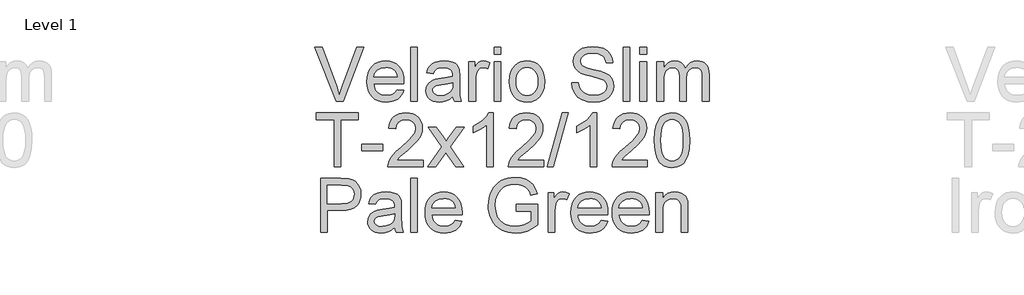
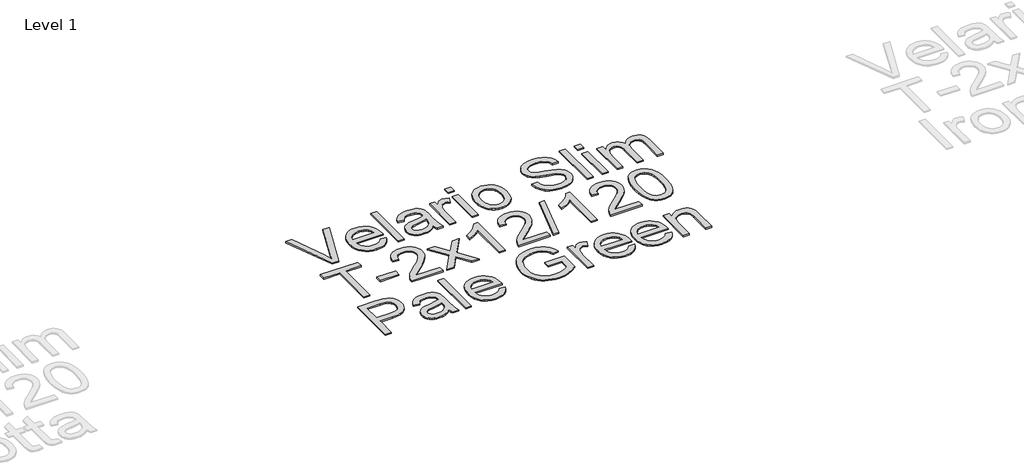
# One storey, part 4 of 13: 1 proxy.
"""IFC4 building model written with IfcOpenShell, lengths in millimetres."""

from ifc_helpers import new_model, si_unit, frame, origin, place, context, project, spatial, polyline, outline, extrude, element, save

model = new_model("IFC4")

# Units and contexts
model_context = context("Model", 3, world=origin())
ifc_project = project(units=[si_unit("LENGTHUNIT", "METRE", prefix="MILLI")], contexts=[model_context])

# Site, building, storey
site = spatial("IfcSite", under=ifc_project)
building = spatial("IfcBuilding", under=site)
storey = spatial("IfcBuildingStorey", under=building, Name="Level 1", Elevation=4000.0)

# Proxy
placement = place(None, origin())
element("IfcBuildingElementProxy", 1, Name="Elysium 400mm Arial", ObjectType="Elysium 400mm Arial", at=placement, inside=storey, context=model_context, shape_type="SweptSolid", body=[
    extrude(outline(polyline([(43601.8504181, -17959.2083157), (43441.9443775, -17557.3830752), (43495.7041998, -17557.3830752), (43602.7333349, -17846.8816799), (43624.4138471, -17912.1194204), (43645.8000538, -17846.8816799), (43753.1234945, -17557.3830752), (43806.8833168, -17557.3830752), (43653.7463049, -17959.2083157), (43601.8504181, -17959.2083157)])), frame((0.0, 0.0, 4000.0), z_axis=(0.0, 0.0, 1.0), x_axis=(1.0, 0.0, 0.0)), (0.0, 0.0, 1.0), 10.0),
    extrude(outline(polyline([(44053.9038138, -17871.3090444), (44103.1509502, -17877.5875638), (44095.6001723, -17897.3121701), (44085.4067753, -17914.6945943), (44072.5707594, -17929.7348366), (44057.0921244, -17942.4328968), (44039.130286, -17952.5189948), (44018.8446596, -17959.7233505), (43971.3020431, -17965.4868351), (43940.1363068, -17963.000566), (43912.3673475, -17955.5417585), (43887.9951653, -17943.1104128), (43867.0197602, -17925.7065287), (43850.1523708, -17903.8144843), (43838.1042354, -17877.9186575), (43830.8753542, -17848.0190484), (43828.4657271, -17814.1156569), (43830.8998797, -17779.0626341), (43838.2023373, -17748.1666779), (43850.3731, -17721.4277882), (43867.4121677, -17698.845965), (43888.3323905, -17680.9055864), (43912.1466183, -17668.0910302), (43938.8548512, -17660.4022965), (43968.457089, -17657.8393853), (43997.1058994, -17660.3961652), (44023.0139889, -17668.0665048), (44046.1813576, -17680.8504041), (44066.6080054, -17698.7478632), (44083.2822568, -17721.2806354), (44095.1924364, -17747.9704741), (44102.3385441, -17778.8173794), (44104.7205801, -17813.8213513), (44104.4262745, -17827.3594087), (43878.6938822, -17827.3594087), (43881.6032157, -17847.402846), (43887.38816, -17864.9569486), (43896.0487153, -17880.0217163), (43907.5848816, -17892.5971492), (43921.3589966, -17902.5115689), (43936.7333983, -17909.5932973), (43972.2830618, -17915.2586801), (43999.0158201, -17912.6344552), (44021.5301982, -17904.7617805), (44039.8261961, -17891.1501466), (44053.9038138, -17871.3090444)]), holes=[polyline([(43878.6938822, -17777.1312536), (44054.492425, -17777.1312536), (44047.6988708, -17750.594699), (44034.3815426, -17731.6119881), (44020.6840696, -17721.3112922), (44005.0981358, -17713.9536523), (43987.623741, -17709.5390684), (43968.2608853, -17708.0675404), (43934.403479, -17712.7641672), (43906.4076592, -17726.8540476), (43886.9467016, -17748.8166027), (43878.6938822, -17777.1312536)])]), frame((0.0, 0.0, 4000.0), z_axis=(0.0, 0.0, 1.0), x_axis=(1.0, 0.0, 0.0)), (0.0, 0.0, 1.0), 10.0),
    extrude(outline(polyline([(44154.9487351, -17959.2083157), (44154.9487351, -17557.3830752), (44205.1768902, -17557.3830752), (44205.1768902, -17959.2083157), (44154.9487351, -17959.2083157)])), frame((0.0, 0.0, 4000.0), z_axis=(0.0, 0.0, 1.0), x_axis=(1.0, 0.0, 0.0)), (0.0, 0.0, 1.0), 10.0),
    extrude(outline(polyline([(44468.8747043, -17921.5371994), (44444.8765355, -17942.1140657), (44420.1671282, -17955.5785467), (44394.1823966, -17963.009763), (44366.358255, -17965.4868351), (44343.9940954, -17963.9969131), (44324.3829194, -17959.5271468), (44307.5247269, -17952.0775364), (44293.4195181, -17941.6480818), (44282.2818907, -17928.9009707), (44274.3264426, -17914.4983906), (44269.5531737, -17898.4403415), (44267.962084, -17880.7268234), (44270.3655797, -17859.9047025), (44277.5760669, -17840.995568), (44288.6983658, -17824.8087602), (44302.8372972, -17812.1536195), (44319.4533006, -17802.5886877), (44338.0068159, -17795.6725062), (44381.4659423, -17788.1186625), (44432.8222688, -17780.1724114), (44468.5803987, -17770.8527342), (44468.8747043, -17759.6691216), (44465.4166136, -17737.2528453), (44455.0423413, -17722.5866165), (44431.8412502, -17711.6973094), (44399.5166855, -17708.0675404), (44369.5956166, -17710.4832988), (44348.6999193, -17717.7305741), (44334.4506233, -17731.1337415), (44324.4687585, -17752.0171761), (44274.2406034, -17745.7386567), (44282.9594067, -17718.2701344), (44295.9701666, -17696.687724), (44314.4868937, -17680.1820851), (44339.7235986, -17667.9438774), (44370.588898, -17660.3655083), (44405.9914086, -17657.8393853), (44439.9469168, -17660.0712027), (44466.8636161, -17666.7666551), (44487.1584395, -17676.834359), (44501.2483199, -17689.1829313), (44510.5925226, -17704.4500341), (44516.6503128, -17723.2733295), (44519.1028594, -17767.2229652), (44519.1028594, -17829.7138534), (44521.6535079, -17916.9754627), (44531.6598982, -17959.2083157), (44481.4317431, -17959.2083157), (44473.3873902, -17941.7461837), (44468.8747043, -17921.5371994)]), holes=[polyline([(44468.8747043, -17821.0808893), (44435.1276627, -17829.4440733), (44387.8425635, -17836.4828822), (44344.6286918, -17844.625337), (44333.3837655, -17850.1926178), (44325.0573697, -17857.8690888), (44319.9070218, -17867.0661387), (44318.1902391, -17877.1951563), (44321.9303727, -17892.1311653), (44333.1507736, -17904.369373), (44351.606187, -17912.5363533), (44377.0513583, -17915.2586801), (44404.0293713, -17912.2543104), (44427.8681246, -17903.2412016), (44447.1941921, -17889.9606615), (44460.6341477, -17874.1539985), (44466.593836, -17857.8690888), (44468.5803987, -17835.3056598), (44468.8747043, -17821.0808893)])]), frame((0.0, 0.0, 4000.0), z_axis=(0.0, 0.0, 1.0), x_axis=(1.0, 0.0, 0.0)), (0.0, 0.0, 1.0), 10.0),
    extrude(outline(polyline([(44588.1665726, -17959.2083157), (44588.1665726, -17664.1179047), (44632.1162083, -17664.1179047), (44632.1162083, -17707.7732348), (44648.3520671, -17682.4629535), (44663.3126015, -17667.55147), (44678.3221869, -17660.2674065), (44694.7051984, -17657.8393853), (44719.7211741, -17661.714409), (44745.1295573, -17673.33948), (44728.3541383, -17718.3682362), (44710.6958025, -17710.6427143), (44693.0374667, -17708.0675404), (44678.0401441, -17710.5446125), (44664.6369767, -17717.9758288), (44653.8089833, -17729.7971036), (44646.5371825, -17745.4443511), (44640.4303414, -17773.5014846), (44638.3947277, -17804.1092666), (44638.3947277, -17959.2083157), (44588.1665726, -17959.2083157)])), frame((0.0, 0.0, 4000.0), z_axis=(0.0, 0.0, 1.0), x_axis=(1.0, 0.0, 0.0)), (0.0, 0.0, 1.0), 10.0),
    extrude(outline(polyline([(44776.5221542, -17607.6112302), (44776.5221542, -17557.3830752), (44826.7503093, -17557.3830752), (44826.7503093, -17607.6112302), (44776.5221542, -17607.6112302)])), frame((0.0, 0.0, 4000.0), z_axis=(0.0, 0.0, 1.0), x_axis=(1.0, 0.0, 0.0)), (0.0, 0.0, 1.0), 10.0),
    extrude(outline(polyline([(44776.5221542, -17959.2083157), (44776.5221542, -17664.1179047), (44826.7503093, -17664.1179047), (44826.7503093, -17959.2083157), (44776.5221542, -17959.2083157)])), frame((0.0, 0.0, 4000.0), z_axis=(0.0, 0.0, 1.0), x_axis=(1.0, 0.0, 0.0)), (0.0, 0.0, 1.0), 10.0),
    extrude(outline(polyline([(44889.5355031, -17811.6631102), (44892.2516985, -17773.4463023), (44900.4002847, -17740.5147324), (44913.9812617, -17712.8684004), (44932.9946295, -17690.5073065), (44952.1367559, -17676.215091), (44973.2654452, -17666.0063656), (44996.3806972, -17659.8811304), (45021.482512, -17657.8393853), (45049.1932233, -17660.3256545), (45074.2490529, -17667.7844619), (45096.6500007, -17680.2158077), (45116.3960668, -17697.6196917), (45132.5123639, -17719.4075029), (45144.0240046, -17744.99063), (45150.9309891, -17774.369073), (45153.2333172, -17807.5428319), (45149.1620898, -17858.2860217), (45136.9484076, -17896.9136312), (45116.9478898, -17925.8414188), (45089.5161557, -17947.4851428), (45056.9340736, -17960.9864121), (45021.482512, -17965.4868351), (44993.3671306, -17963.009763), (44968.0783091, -17955.5785467), (44945.6160476, -17943.1931862), (44925.9803461, -17925.8536815), (44910.0357273, -17903.8543382), (44898.6467138, -17877.4894619), (44891.8133058, -17846.7590526), (44889.5355031, -17811.6631102)]), holes=[polyline([(44939.7636582, -17811.5650084), (44941.2167921, -17835.9279935), (44945.5761937, -17857.0229602), (44952.8418631, -17874.8499086), (44963.0138003, -17889.4088385), (44975.386898, -17900.7181442), (44989.2560493, -17908.7962197), (45004.6212539, -17913.643065), (45021.482512, -17915.2586801), (45038.257931, -17913.6338679), (45053.561822, -17908.7594315), (45067.394185, -17900.6353708), (45079.7550201, -17889.2616857), (45089.9269572, -17874.5586687), (45097.1926266, -17856.4466118), (45101.5520283, -17834.925515), (45103.0051622, -17809.9953785), (45101.5428312, -17786.4049456), (45097.1558384, -17765.8618018), (45089.8441838, -17748.3659473), (45079.6078673, -17733.9173819), (45067.201047, -17722.6080762), (45053.377881, -17714.5300008), (45038.1383694, -17709.6831555), (45021.482512, -17708.0675404), (45004.6212539, -17709.6770241), (44989.2560493, -17714.5054753), (44975.386898, -17722.5528939), (44963.0138003, -17733.81928), (44952.8418631, -17748.3352904), (44945.5761937, -17766.1315819), (44941.2167921, -17787.2081546), (44939.7636582, -17811.5650084)])]), frame((0.0, 0.0, 4000.0), z_axis=(0.0, 0.0, 1.0), x_axis=(1.0, 0.0, 0.0)), (0.0, 0.0, 1.0), 10.0),
    extrude(outline(polyline([(45354.1459375, -17821.0808893), (45404.3740926, -17821.0808893), (45410.1375772, -17848.9540818), (45420.5609004, -17871.3580953), (45436.8212846, -17889.1390584), (45460.0959521, -17903.1430997), (45488.5454931, -17912.229785), (45520.3304975, -17915.2586801), (45548.3140546, -17912.965549), (45572.8149955, -17906.0861556), (45592.6683605, -17895.1968486), (45606.70919, -17880.8739762), (45615.0601112, -17864.4296511), (45617.8437517, -17847.1759855), (45615.759087, -17830.3637783), (45609.5050931, -17815.8324395), (45596.8009016, -17803.4348163), (45575.365644, -17793.0237558), (45502.2307033, -17773.8448411), (45454.222103, -17761.1529123), (45423.5039564, -17749.0741201), (45398.5002434, -17732.1760738), (45380.780594, -17711.6973094), (45370.2223807, -17688.0792853), (45366.7029763, -17661.7634599), (45371.0562466, -17632.345163), (45384.1160574, -17604.9134289), (45405.5390523, -17581.6632868), (45434.9818746, -17564.789766), (45470.3230716, -17554.5258583), (45509.4411904, -17551.1045558), (45551.8211963, -17554.6852739), (45588.9037014, -17565.4274281), (45619.3643306, -17583.1102893), (45641.8787087, -17607.5131284), (45656.1280046, -17637.1153662), (45661.7933874, -17670.3964241), (45611.5652323, -17670.3964241), (45602.3436569, -17640.4263042), (45593.9804729, -17628.5682412), (45583.1156913, -17618.7948429), (45553.0719951, -17605.6982439), (45511.4032277, -17601.3327108), (45468.7534418, -17605.6491929), (45452.450138, -17611.0447955), (45439.4945604, -17618.5986391), (45422.5719886, -17637.6549265), (45416.9311314, -17660.2919319), (45420.9287824, -17679.5934739), (45432.9217354, -17695.1180941), (45461.2731745, -17708.9995081), (45514.9348949, -17723.1752276), (45570.3133979, -17736.6397087), (45603.8151849, -17748.387407), (45632.4486669, -17766.6098285), (45652.4246592, -17789.0996812), (45664.1600949, -17815.6117103), (45668.0719068, -17845.9006612), (45663.5714837, -17876.8640625), (45650.0702145, -17905.9880538), (45628.1199221, -17931.0530804), (45598.2724295, -17949.8395876), (45562.3794095, -17961.5750233), (45522.2925348, -17965.4868351), (45473.0821866, -17961.2684549), (45432.5783789, -17948.6133143), (45400.3151279, -17927.4723623), (45375.8264498, -17897.796548), (45360.1056259, -17861.6460106), (45354.1459375, -17821.0808893)])), frame((0.0, 0.0, 4000.0), z_axis=(0.0, 0.0, 1.0), x_axis=(1.0, 0.0, 0.0)), (0.0, 0.0, 1.0), 10.0),
    extrude(outline(polyline([(45737.13562, -17959.2083157), (45737.13562, -17557.3830752), (45787.3637751, -17557.3830752), (45787.3637751, -17959.2083157), (45737.13562, -17959.2083157)])), frame((0.0, 0.0, 4000.0), z_axis=(0.0, 0.0, 1.0), x_axis=(1.0, 0.0, 0.0)), (0.0, 0.0, 1.0), 10.0),
    extrude(outline(polyline([(45862.7060077, -17607.6112302), (45862.7060077, -17557.3830752), (45912.9341627, -17557.3830752), (45912.9341627, -17607.6112302), (45862.7060077, -17607.6112302)])), frame((0.0, 0.0, 4000.0), z_axis=(0.0, 0.0, 1.0), x_axis=(1.0, 0.0, 0.0)), (0.0, 0.0, 1.0), 10.0),
    extrude(outline(polyline([(45862.7060077, -17959.2083157), (45862.7060077, -17664.1179047), (45912.9341627, -17664.1179047), (45912.9341627, -17959.2083157), (45862.7060077, -17959.2083157)])), frame((0.0, 0.0, 4000.0), z_axis=(0.0, 0.0, 1.0), x_axis=(1.0, 0.0, 0.0)), (0.0, 0.0, 1.0), 10.0),
    extrude(outline(polyline([(45988.2763954, -17959.2083157), (45988.2763954, -17664.1179047), (46038.5045504, -17664.1179047), (46038.5045504, -17712.678328), (46053.6122377, -17690.3724164), (46073.036407, -17672.8980216), (46096.1148709, -17661.6040444), (46122.1854416, -17657.8393853), (46150.1199478, -17661.6776208), (46172.5116985, -17673.1923272), (46189.2380666, -17691.6232152), (46200.1764246, -17716.2099952), (46218.4846852, -17690.6728534), (46239.3681198, -17672.4320378), (46262.8267284, -17661.4875484), (46288.8605109, -17657.8393853), (46308.9683276, -17659.3568985), (46326.6174663, -17663.9094382), (46341.807927, -17671.4970044), (46354.5397098, -17682.119597), (46364.604348, -17695.8998434), (46371.7933753, -17712.9603709), (46376.1067917, -17733.3011796), (46377.5445972, -17756.9222693), (46377.5445972, -17959.2083157), (46327.3164421, -17959.2083157), (46327.3164421, -17778.5046797), (46326.1514825, -17753.4519158), (46322.6566035, -17736.5661323), (46316.108304, -17725.0023749), (46305.7830827, -17715.9156896), (46292.5025426, -17710.0295777), (46277.088287, -17708.0675404), (46249.8772821, -17713.095261), (46227.6939978, -17728.1784228), (46219.0886248, -17739.7483115), (46212.9419298, -17754.3470954), (46208.0245738, -17792.6313483), (46208.0245738, -17959.2083157), (46157.7964187, -17959.2083157), (46157.7964187, -17772.9128734), (46154.890151, -17744.5123834), (46146.1713477, -17724.2543482), (46130.8306685, -17712.1142423), (46108.058773, -17708.0675404), (46088.70818, -17710.7653417), (46070.878166, -17718.8587456), (46056.1628862, -17732.1515483), (46046.1564959, -17750.4475462), (46040.4175368, -17775.8314039), (46038.5045504, -17810.387786), (46038.5045504, -17959.2083157), (45988.2763954, -17959.2083157)])), frame((0.0, 0.0, 4000.0), z_axis=(0.0, 0.0, 1.0), x_axis=(1.0, 0.0, 0.0)), (0.0, 0.0, 1.0), 10.0),
    extrude(outline(polyline([(43583.6034712, -18447.1075871), (43583.6034712, -18095.5105016), (43451.7545641, -18095.5105016), (43451.7545641, -18045.2823465), (43765.6805333, -18045.2823465), (43765.6805333, -18095.5105016), (43633.8316262, -18095.5105016), (43633.8316262, -18447.1075871), (43583.6034712, -18447.1075871)])), frame((0.0, 0.0, 4000.0), z_axis=(0.0, 0.0, 1.0), x_axis=(1.0, 0.0, 0.0)), (0.0, 0.0, 1.0), 10.0),
    extrude(outline(polyline([(43790.7946108, -18327.8157188), (43790.7946108, -18277.5875638), (43947.7575954, -18277.5875638), (43947.7575954, -18327.8157188), (43790.7946108, -18327.8157188)])), frame((0.0, 0.0, 4000.0), z_axis=(0.0, 0.0, 1.0), x_axis=(1.0, 0.0, 0.0)), (0.0, 0.0, 1.0), 10.0),
    extrude(outline(polyline([(44249.1265259, -18396.8794321), (44249.1265259, -18447.1075871), (43985.4287117, -18447.1075871), (43986.5323577, -18429.4247259), (43990.8243143, -18412.4776287), (44003.2096748, -18385.4137765), (44021.3339945, -18359.1592648), (44047.551718, -18331.6784798), (44084.2172902, -18300.9358077), (44138.4185708, -18252.7923173), (44170.9393392, -18217.2549165), (44187.1997234, -18188.4129681), (44192.6198514, -18160.3558346), (44187.5062917, -18135.2049689), (44172.1656125, -18114.2970088), (44148.5843766, -18100.2071284), (44118.7491468, -18095.5105016), (44087.4178635, -18100.0967638), (44063.0763382, -18113.8555504), (44047.367777, -18135.7077409), (44041.9353862, -18164.5742148), (43991.7072311, -18158.2956955), (43996.0267789, -18132.3661462), (44003.8841252, -18109.7107466), (44015.27927, -18090.3294968), (44030.2122133, -18074.2223968), (44048.3395986, -18061.5611248), (44069.3180694, -18052.5173591), (44093.1476256, -18047.0910997), (44119.8282673, -18045.2823465), (44146.7480323, -18047.2934348), (44170.7063473, -18053.3266995), (44191.7032121, -18063.3821407), (44209.7386269, -18077.4597584), (44224.2239805, -18094.5172202), (44234.5706616, -18113.5121939), (44240.7786703, -18134.4446794), (44242.8480065, -18157.3146768), (44240.6161891, -18181.3373711), (44233.9207368, -18204.9431324), (44222.0381483, -18228.953564), (44204.2449225, -18254.1902689), (44175.8812207, -18284.3198043), (44132.2872042, -18323.0087274), (44074.5052055, -18371.3238961), (44051.8436746, -18396.8794321), (44249.1265259, -18396.8794321)])), frame((0.0, 0.0, 4000.0), z_axis=(0.0, 0.0, 1.0), x_axis=(1.0, 0.0, 0.0)), (0.0, 0.0, 1.0), 10.0),
    extrude(outline(polyline([(44280.5191228, -18447.1075871), (44387.8425635, -18298.7775667), (44286.7976422, -18152.0171761), (44347.2283913, -18152.0171761), (44395.9850184, -18222.6505191), (44418.7446511, -18256.0051534), (44438.4631261, -18228.7328348), (44493.9887819, -18152.0171761), (44554.419531, -18152.0171761), (44448.2733126, -18298.7775667), (44550.4954563, -18447.1075871), (44490.0647073, -18447.1075871), (44428.5548377, -18357.9329915), (44417.2731232, -18341.6480818), (44340.9498719, -18447.1075871), (44280.5191228, -18447.1075871)])), frame((0.0, 0.0, 4000.0), z_axis=(0.0, 0.0, 1.0), x_axis=(1.0, 0.0, 0.0)), (0.0, 0.0, 1.0), 10.0),
    extrude(outline(polyline([(44770.2436348, -18447.1075871), (44720.0154797, -18447.1075871), (44720.0154797, -18133.9664328), (44699.046206, -18150.9257928), (44672.436075, -18167.8606273), (44619.5591696, -18193.2199595), (44619.5591696, -18145.7386567), (44659.0083822, -18124.2788736), (44693.1846195, -18098.7478632), (44720.1258443, -18071.5981719), (44737.8700192, -18045.2823465), (44770.2436348, -18045.2823465), (44770.2436348, -18447.1075871)])), frame((0.0, 0.0, 4000.0), z_axis=(0.0, 0.0, 1.0), x_axis=(1.0, 0.0, 0.0)), (0.0, 0.0, 1.0), 10.0),
    extrude(outline(polyline([(45146.9547979, -18396.8794321), (45146.9547979, -18447.1075871), (44883.2569837, -18447.1075871), (44884.3606297, -18429.4247259), (44888.6525863, -18412.4776287), (44901.0379468, -18385.4137765), (44919.1622664, -18359.1592648), (44945.37999, -18331.6784798), (44982.0455621, -18300.9358077), (45036.2468428, -18252.7923173), (45068.7676111, -18217.2549165), (45085.0279953, -18188.4129681), (45090.4481234, -18160.3558346), (45085.3345637, -18135.2049689), (45069.9938845, -18114.2970088), (45046.4126486, -18100.2071284), (45016.5774188, -18095.5105016), (44985.2461355, -18100.0967638), (44960.9046102, -18113.8555504), (44945.196049, -18135.7077409), (44939.7636582, -18164.5742148), (44889.5355031, -18158.2956955), (44893.8550509, -18132.3661462), (44901.7123971, -18109.7107466), (44913.1075419, -18090.3294968), (44928.0404853, -18074.2223968), (44946.1678706, -18061.5611248), (44967.1463413, -18052.5173591), (44990.9758976, -18047.0910997), (45017.6565393, -18045.2823465), (45044.5763043, -18047.2934348), (45068.5346192, -18053.3266995), (45089.5314841, -18063.3821407), (45107.5668989, -18077.4597584), (45122.0522525, -18094.5172202), (45132.3989336, -18113.5121939), (45138.6069422, -18134.4446794), (45140.6762785, -18157.3146768), (45138.444461, -18181.3373711), (45131.7490087, -18204.9431324), (45119.8664203, -18228.953564), (45102.0731944, -18254.1902689), (45073.7094926, -18284.3198043), (45030.1154762, -18323.0087274), (44972.3334775, -18371.3238961), (44949.6719466, -18396.8794321), (45146.9547979, -18396.8794321)])), frame((0.0, 0.0, 4000.0), z_axis=(0.0, 0.0, 1.0), x_axis=(1.0, 0.0, 0.0)), (0.0, 0.0, 1.0), 10.0),
    extrude(outline(polyline([(45172.0688754, -18447.1075871), (45285.0822243, -18045.2823465), (45330.4052861, -18045.2823465), (45217.3919372, -18447.1075871), (45172.0688754, -18447.1075871)])), frame((0.0, 0.0, 4000.0), z_axis=(0.0, 0.0, 1.0), x_axis=(1.0, 0.0, 0.0)), (0.0, 0.0, 1.0), 10.0),
    extrude(outline(polyline([(45542.5015191, -18447.1075871), (45492.273364, -18447.1075871), (45492.273364, -18133.9664328), (45471.3040903, -18150.9257928), (45444.6939593, -18167.8606273), (45391.8170538, -18193.2199595), (45391.8170538, -18145.7386567), (45431.2662665, -18124.2788736), (45465.4425038, -18098.7478632), (45492.3837286, -18071.5981719), (45510.1279035, -18045.2823465), (45542.5015191, -18045.2823465), (45542.5015191, -18447.1075871)])), frame((0.0, 0.0, 4000.0), z_axis=(0.0, 0.0, 1.0), x_axis=(1.0, 0.0, 0.0)), (0.0, 0.0, 1.0), 10.0),
    extrude(outline(polyline([(45919.2126821, -18396.8794321), (45919.2126821, -18447.1075871), (45655.514868, -18447.1075871), (45656.618514, -18429.4247259), (45660.9104706, -18412.4776287), (45673.2958311, -18385.4137765), (45691.4201507, -18359.1592648), (45717.6378742, -18331.6784798), (45754.3034464, -18300.9358077), (45808.504727, -18252.7923173), (45841.0254954, -18217.2549165), (45857.2858796, -18188.4129681), (45862.7060077, -18160.3558346), (45857.5924479, -18135.2049689), (45842.2517687, -18114.2970088), (45818.6705328, -18100.2071284), (45788.835303, -18095.5105016), (45757.5040198, -18100.0967638), (45733.1624944, -18113.8555504), (45717.4539332, -18135.7077409), (45712.0215424, -18164.5742148), (45661.7933874, -18158.2956955), (45666.1129351, -18132.3661462), (45673.9702814, -18109.7107466), (45685.3654262, -18090.3294968), (45700.2983695, -18074.2223968), (45718.4257548, -18061.5611248), (45739.4042256, -18052.5173591), (45763.2337819, -18047.0910997), (45789.9144236, -18045.2823465), (45816.8341886, -18047.2934348), (45840.7925035, -18053.3266995), (45861.7893684, -18063.3821407), (45879.8247832, -18077.4597584), (45894.3101367, -18094.5172202), (45904.6568179, -18113.5121939), (45910.8648265, -18134.4446794), (45912.9341627, -18157.3146768), (45910.7023453, -18181.3373711), (45904.006893, -18204.9431324), (45892.1243046, -18228.953564), (45874.3310787, -18254.1902689), (45845.9673769, -18284.3198043), (45802.3733605, -18323.0087274), (45744.5913618, -18371.3238961), (45721.9298308, -18396.8794321), (45919.2126821, -18396.8794321)])), frame((0.0, 0.0, 4000.0), z_axis=(0.0, 0.0, 1.0), x_axis=(1.0, 0.0, 0.0)), (0.0, 0.0, 1.0), 10.0),
    extrude(outline(polyline([(45969.4408372, -18249.4323284), (45973.1319199, -18185.1142929), (45984.2051679, -18133.81928), (46002.5502168, -18094.7624749), (46014.4082797, -18079.5290946), (46028.0567018, -18067.1590625), (46043.5414681, -18057.5879993), (46060.9085639, -18050.7515255), (46101.2897443, -18045.2823465), (46132.2408828, -18048.5197081), (46159.9546598, -18058.2317928), (46183.1312255, -18074.0384558), (46200.4707302, -18095.5595525), (46213.5673292, -18122.6111419), (46224.0151779, -18155.009283), (46230.857783, -18196.1507528), (46233.1386513, -18249.4323284), (46229.4843569, -18313.3824819), (46218.5214734, -18364.5548674), (46200.2867892, -18403.6484608), (46188.4563173, -18418.9278263), (46174.8170924, -18431.3622377), (46159.313932, -18440.9976803), (46141.8916538, -18447.8801393), (46101.2897443, -18453.3861065), (46073.6250182, -18450.9948735), (46049.0995519, -18443.8211746), (46027.7133452, -18431.8650098), (46009.4663983, -18415.126379), (45991.9552153, -18384.8680849), (45979.4472275, -18347.1663118), (45971.9424348, -18302.0210596), (45969.4408372, -18249.4323284)]), holes=[polyline([(46019.6689923, -18249.3342265), (46021.1405203, -18292.9987537), (46025.5551042, -18328.3430164), (46032.9127441, -18355.3670146), (46043.21344, -18374.0707484), (46055.6723769, -18386.7963997), (46069.5047399, -18395.8861507), (46084.710529, -18401.3400012), (46101.2897443, -18403.1579514), (46117.8689595, -18401.3338699), (46133.0747487, -18395.8616252), (46146.9071117, -18386.7412174), (46159.3660486, -18373.9726465), (46169.6667444, -18355.2382559), (46177.0243843, -18328.220389), (46181.4389683, -18292.9190459), (46182.9104963, -18249.3342265), (46181.4880192, -18206.825462), (46177.2205881, -18172.103533), (46170.1082028, -18145.1684396), (46160.1508635, -18126.0201817), (46147.9003931, -18112.6721967), (46133.9086145, -18103.1379216), (46118.1755279, -18097.4173566), (46100.7011331, -18095.5105016), (46084.207757, -18097.1904961), (46069.2594852, -18102.2304794), (46055.8563179, -18110.6304516), (46043.9982549, -18122.3904127), (46033.3542025, -18143.2370591), (46025.7513079, -18171.3432435), (46021.1895712, -18206.708966), (46019.6689923, -18249.3342265)])]), frame((0.0, 0.0, 4000.0), z_axis=(0.0, 0.0, 1.0), x_axis=(1.0, 0.0, 0.0)), (0.0, 0.0, 1.0), 10.0),
    extrude(outline(polyline([(43483.147161, -18935.0068585), (43483.147161, -18533.1816179), (43632.0657926, -18533.1816179), (43692.1041343, -18537.0075907), (43718.8736808, -18544.1567641), (43740.9098123, -18555.7940979), (43758.6539872, -18572.4468895), (43772.5476639, -18594.6424366), (43781.5239846, -18620.8233719), (43784.5160914, -18649.4323284), (43782.4958062, -18674.0988162), (43776.4349503, -18696.7910039), (43766.3335238, -18717.5088916), (43752.1915268, -18736.2524793), (43732.7765545, -18751.7893622), (43706.8562023, -18762.8871357), (43674.4304701, -18769.5457998), (43635.4993579, -18771.7653545), (43533.3753161, -18771.7653545), (43533.3753161, -18935.0068585), (43483.147161, -18935.0068585)]), holes=[polyline([(43533.3753161, -18721.5371994), (43638.4424139, -18721.5371994), (43682.9806608, -18716.9264118), (43699.5844015, -18711.1629272), (43712.4112204, -18703.0940488), (43721.9822836, -18692.9343743), (43728.8187574, -18680.8985017), (43734.2879364, -18651.198162), (43731.0628376, -18628.6347329), (43721.3875411, -18609.602971), (43706.4637948, -18595.2800987), (43687.4933466, -18586.8433383), (43637.2651915, -18583.409773), (43533.3753161, -18583.409773), (43533.3753161, -18721.5371994)])]), frame((0.0, 0.0, 4000.0), z_axis=(0.0, 0.0, 1.0), x_axis=(1.0, 0.0, 0.0)), (0.0, 0.0, 1.0), 10.0),
    extrude(outline(polyline([(44035.6568668, -18897.3357422), (44011.658698, -18917.9126085), (43986.9492907, -18931.3770895), (43960.9645591, -18938.8083058), (43933.1404175, -18941.2853779), (43910.7762579, -18939.7954558), (43891.1650819, -18935.3256896), (43874.3068894, -18927.8760792), (43860.2016806, -18917.4466246), (43849.0640532, -18904.6995135), (43841.108605, -18890.2969334), (43836.3353362, -18874.2388843), (43834.7442465, -18856.5253662), (43837.1477422, -18835.7032453), (43844.3582293, -18816.7941107), (43855.4805283, -18800.6073029), (43869.6194597, -18787.9521623), (43886.2354631, -18778.3872304), (43904.7889784, -18771.4710489), (43948.2481048, -18763.9172053), (43999.6044313, -18755.9709542), (44035.3625612, -18746.651277), (44035.6568668, -18735.4676643), (44032.1987761, -18713.0513881), (44021.8245038, -18698.3851592), (43998.6234126, -18687.4958522), (43966.298848, -18683.8660831), (43936.3777791, -18686.2818416), (43915.4820817, -18693.5291169), (43901.2327858, -18706.9322842), (43891.250921, -18727.8157188), (43841.0227659, -18721.5371994), (43849.7415692, -18694.0686771), (43862.7523291, -18672.4862668), (43881.2690562, -18655.9806279), (43906.5057611, -18643.7424202), (43937.3710604, -18636.1640511), (43972.7735711, -18633.6379281), (44006.7290793, -18635.8697455), (44033.6457786, -18642.5651978), (44053.940602, -18652.6329017), (44068.0304824, -18664.9814741), (44077.3746851, -18680.2485769), (44083.4324753, -18699.0718723), (44085.8850219, -18743.021508), (44085.8850219, -18805.5123962), (44088.4356704, -18892.7740055), (44098.4420607, -18935.0068585), (44048.2139056, -18935.0068585), (44040.1695526, -18917.5447265), (44035.6568668, -18897.3357422)]), holes=[polyline([(44035.6568668, -18796.8794321), (44001.9098251, -18805.2426161), (43954.624726, -18812.2814249), (43911.4108543, -18820.4238797), (43900.165928, -18825.9911606), (43891.8395322, -18833.6676316), (43886.6891842, -18842.8646815), (43884.9724016, -18852.9936991), (43888.7125352, -18867.9297081), (43899.9329361, -18880.1679158), (43918.3883495, -18888.3348961), (43943.8335208, -18891.0572228), (43970.8115338, -18888.0528532), (43994.6502871, -18879.0397443), (44013.9763546, -18865.7592043), (44027.4163101, -18849.9525412), (44033.3759985, -18833.6676316), (44035.3625612, -18811.1042025), (44035.6568668, -18796.8794321)])]), frame((0.0, 0.0, 4000.0), z_axis=(0.0, 0.0, 1.0), x_axis=(1.0, 0.0, 0.0)), (0.0, 0.0, 1.0), 10.0),
    extrude(outline(polyline([(44154.9487351, -18935.0068585), (44154.9487351, -18533.1816179), (44205.1768902, -18533.1816179), (44205.1768902, -18935.0068585), (44154.9487351, -18935.0068585)])), frame((0.0, 0.0, 4000.0), z_axis=(0.0, 0.0, 1.0), x_axis=(1.0, 0.0, 0.0)), (0.0, 0.0, 1.0), 10.0),
    extrude(outline(polyline([(44487.1216513, -18847.1075871), (44536.3687877, -18853.3861065), (44528.8180098, -18873.1107128), (44518.6246128, -18890.4931371), (44505.7885969, -18905.5333793), (44490.3099619, -18918.2314395), (44472.3481235, -18928.3175376), (44452.0624972, -18935.5218933), (44404.5198807, -18941.2853779), (44373.3541443, -18938.7991087), (44345.585185, -18931.3403013), (44321.2130028, -18918.9089555), (44300.2375978, -18901.5050715), (44283.3702083, -18879.6130271), (44271.3220729, -18853.7172003), (44264.0931917, -18823.8175912), (44261.6835647, -18789.9141996), (44264.1177172, -18754.8611768), (44271.4201748, -18723.9652206), (44283.5909375, -18697.2263309), (44300.6300052, -18674.6445078), (44321.550228, -18656.7041292), (44345.3644558, -18643.889573), (44372.0726887, -18636.2008393), (44401.6749266, -18633.6379281), (44430.3237369, -18636.1947079), (44456.2318264, -18643.8650475), (44479.3991951, -18656.6489469), (44499.8258429, -18674.5464059), (44516.5000943, -18697.0791781), (44528.4102739, -18723.7690169), (44535.5563817, -18754.6159222), (44537.9384176, -18789.619894), (44537.644112, -18803.1579514), (44311.9117197, -18803.1579514), (44314.8210532, -18823.2013888), (44320.6059976, -18840.7554913), (44329.2665529, -18855.820259), (44340.8027191, -18868.3956919), (44354.5768341, -18878.3101117), (44369.9512358, -18885.3918401), (44405.5008993, -18891.0572228), (44432.2336576, -18888.4329979), (44454.7480357, -18880.5603232), (44473.0440336, -18866.9486894), (44487.1216513, -18847.1075871)]), holes=[polyline([(44311.9117197, -18752.9297964), (44487.7102625, -18752.9297964), (44480.9167083, -18726.3932418), (44467.5993801, -18707.4105308), (44453.9019071, -18697.109835), (44438.3159733, -18689.7521951), (44420.8415785, -18685.3376111), (44401.4787228, -18683.8660831), (44367.6213165, -18688.5627099), (44339.6254967, -18702.6525904), (44320.1645392, -18724.6151455), (44311.9117197, -18752.9297964)])]), frame((0.0, 0.0, 4000.0), z_axis=(0.0, 0.0, 1.0), x_axis=(1.0, 0.0, 0.0)), (0.0, 0.0, 1.0), 10.0),
    extrude(outline(polyline([(44939.7636582, -18778.0438739), (44939.7636582, -18727.8157188), (45103.0051622, -18727.8157188), (45103.0051622, -18878.0096747), (45063.3352203, -18905.6008244), (45022.4144798, -18925.3928757), (44980.3410422, -18937.3122523), (44937.2130097, -18941.2853779), (44908.3618642, -18939.706551), (44880.8657507, -18934.9700703), (44854.7246693, -18927.0759358), (44829.9386199, -18916.0241476), (44807.3077458, -18901.9802524), (44787.6321904, -18885.1097972), (44770.9119538, -18865.4127821), (44757.1470358, -18842.8892069), (44746.3956845, -18818.2595073), (44738.7161478, -18792.2441189), (44734.1084258, -18764.8430416), (44732.5725185, -18736.0562755), (44738.6916223, -18679.4637619), (44746.3405022, -18652.6482302), (44757.0489339, -18626.8198484), (44770.6268452, -18603.1129195), (44786.8841637, -18582.6617463), (44805.8208894, -18565.4663287), (44827.4370223, -18551.5266667), (44851.2635129, -18540.7538556), (44876.8313115, -18533.0589906), (44904.1404183, -18528.4420715), (44933.1908332, -18526.9030985), (44974.5652949, -18530.4715539), (45011.7704274, -18541.1769199), (45043.1017106, -18558.2466445), (45066.8546248, -18580.9081754), (45084.4271214, -18610.2528959), (45097.2171521, -18647.3721892), (45050.9130716, -18660.4197373), (45040.5755876, -18633.9444964), (45028.0062861, -18613.9685041), (45011.3780199, -18598.9098677), (44988.8636418, -18587.1866948), (44962.0205189, -18579.6451139), (44932.4060183, -18577.1312536), (44897.7392716, -18579.8413176), (44868.1002455, -18587.9715097), (44843.5993046, -18600.504023), (44824.3468135, -18616.4210507), (44809.5702201, -18634.9009896), (44798.496972, -18655.1222366), (44786.7247482, -18693.0386076), (44782.8006736, -18733.9961363), (44787.5218258, -18782.0292622), (44801.6852826, -18821.5520512), (44824.8618483, -18852.2824605), (44856.6223273, -18873.9384473), (44893.7906715, -18886.7775289), (44933.1908332, -18891.0572228), (44967.9802072, -18887.832124), (45001.9111899, -18878.1568275), (45031.3785377, -18864.8272366), (45052.7770071, -18850.6392543), (45052.7770071, -18778.0438739), (44939.7636582, -18778.0438739)])), frame((0.0, 0.0, 4000.0), z_axis=(0.0, 0.0, 1.0), x_axis=(1.0, 0.0, 0.0)), (0.0, 0.0, 1.0), 10.0),
    extrude(outline(polyline([(45178.3473948, -18935.0068585), (45178.3473948, -18639.9164474), (45222.2970305, -18639.9164474), (45222.2970305, -18683.5717775), (45238.5328892, -18658.2614963), (45253.4934237, -18643.3500127), (45268.5030091, -18636.0659492), (45284.8860206, -18633.6379281), (45309.9019963, -18637.5129517), (45335.3103794, -18649.1380228), (45318.5349604, -18694.166779), (45300.8766246, -18686.4412571), (45283.2182889, -18683.8660831), (45268.2209662, -18686.3431552), (45254.8177988, -18693.7743715), (45243.9898054, -18705.5956463), (45236.7180047, -18721.2428938), (45230.6111636, -18749.3000273), (45228.5755499, -18779.9078093), (45228.5755499, -18935.0068585), (45178.3473948, -18935.0068585)])), frame((0.0, 0.0, 4000.0), z_axis=(0.0, 0.0, 1.0), x_axis=(1.0, 0.0, 0.0)), (0.0, 0.0, 1.0), 10.0),
    extrude(outline(polyline([(45573.3055048, -18847.1075871), (45622.5526412, -18853.3861065), (45615.0018633, -18873.1107128), (45604.8084663, -18890.4931371), (45591.9724504, -18905.5333793), (45576.4938154, -18918.2314395), (45558.531977, -18928.3175376), (45538.2463507, -18935.5218933), (45490.7037341, -18941.2853779), (45459.5379978, -18938.7991087), (45431.7690385, -18931.3403013), (45407.3968563, -18918.9089555), (45386.4214512, -18901.5050715), (45369.5540618, -18879.6130271), (45357.5059264, -18853.7172003), (45350.2770452, -18823.8175912), (45347.8674182, -18789.9141996), (45350.3015707, -18754.8611768), (45357.6040283, -18723.9652206), (45369.774791, -18697.2263309), (45386.8138587, -18674.6445078), (45407.7340815, -18656.7041292), (45431.5483093, -18643.889573), (45458.2565422, -18636.2008393), (45487.8587801, -18633.6379281), (45516.5075904, -18636.1947079), (45542.4156799, -18643.8650475), (45565.5830486, -18656.6489469), (45586.0096964, -18674.5464059), (45602.6839478, -18697.0791781), (45614.5941274, -18723.7690169), (45621.7402351, -18754.6159222), (45624.1222711, -18789.619894), (45623.8279655, -18803.1579514), (45398.0955732, -18803.1579514), (45401.0049067, -18823.2013888), (45406.789851, -18840.7554913), (45415.4504064, -18855.820259), (45426.9865726, -18868.3956919), (45440.7606876, -18878.3101117), (45456.1350893, -18885.3918401), (45491.6847528, -18891.0572228), (45518.4175111, -18888.4329979), (45540.9318892, -18880.5603232), (45559.2278871, -18866.9486894), (45573.3055048, -18847.1075871)]), holes=[polyline([(45398.0955732, -18752.9297964), (45573.894116, -18752.9297964), (45567.1005618, -18726.3932418), (45553.7832336, -18707.4105308), (45540.0857606, -18697.109835), (45524.4998268, -18689.7521951), (45507.025432, -18685.3376111), (45487.6625763, -18683.8660831), (45453.80517, -18688.5627099), (45425.8093502, -18702.6525904), (45406.3483927, -18724.6151455), (45398.0955732, -18752.9297964)])]), frame((0.0, 0.0, 4000.0), z_axis=(0.0, 0.0, 1.0), x_axis=(1.0, 0.0, 0.0)), (0.0, 0.0, 1.0), 10.0),
    extrude(outline(polyline([(45880.9529546, -18847.1075871), (45930.2000911, -18853.3861065), (45922.6493131, -18873.1107128), (45912.4559162, -18890.4931371), (45899.6199002, -18905.5333793), (45884.1412653, -18918.2314395), (45866.1794268, -18928.3175376), (45845.8938005, -18935.5218933), (45798.351184, -18941.2853779), (45767.1854476, -18938.7991087), (45739.4164884, -18931.3403013), (45715.0443062, -18918.9089555), (45694.0689011, -18901.5050715), (45677.2015116, -18879.6130271), (45665.1533763, -18853.7172003), (45657.9244951, -18823.8175912), (45655.514868, -18789.9141996), (45657.9490205, -18754.8611768), (45665.2514781, -18723.9652206), (45677.4222408, -18697.2263309), (45694.4613085, -18674.6445078), (45715.3815313, -18656.7041292), (45739.1957592, -18643.889573), (45765.903992, -18636.2008393), (45795.5062299, -18633.6379281), (45824.1550403, -18636.1947079), (45850.0631298, -18643.8650475), (45873.2304984, -18656.6489469), (45893.6571462, -18674.5464059), (45910.3313976, -18697.0791781), (45922.2415772, -18723.7690169), (45929.387685, -18754.6159222), (45931.7697209, -18789.619894), (45931.4754153, -18803.1579514), (45705.7430231, -18803.1579514), (45708.6523565, -18823.2013888), (45714.4373009, -18840.7554913), (45723.0978562, -18855.820259), (45734.6340224, -18868.3956919), (45748.4081375, -18878.3101117), (45763.7825392, -18885.3918401), (45799.3322026, -18891.0572228), (45826.0649609, -18888.4329979), (45848.5793391, -18880.5603232), (45866.8753369, -18866.9486894), (45880.9529546, -18847.1075871)]), holes=[polyline([(45705.7430231, -18752.9297964), (45881.5415658, -18752.9297964), (45874.7480116, -18726.3932418), (45861.4306834, -18707.4105308), (45847.7332105, -18697.109835), (45832.1472766, -18689.7521951), (45814.6728818, -18685.3376111), (45795.3100262, -18683.8660831), (45761.4526199, -18688.5627099), (45733.4568, -18702.6525904), (45713.9958425, -18724.6151455), (45705.7430231, -18752.9297964)])]), frame((0.0, 0.0, 4000.0), z_axis=(0.0, 0.0, 1.0), x_axis=(1.0, 0.0, 0.0)), (0.0, 0.0, 1.0), 10.0),
    extrude(outline(polyline([(45981.997876, -18935.0068585), (45981.997876, -18639.9164474), (46032.226031, -18639.9164474), (46032.226031, -18681.1192309), (46049.6759004, -18660.3461609), (46070.6329113, -18645.5082538), (46095.097064, -18636.6055095), (46123.0683584, -18633.6379281), (46147.8268167, -18636.029161), (46170.5006103, -18643.2028599), (46189.4097449, -18654.2638453), (46202.8742259, -18668.3169375), (46212.0099621, -18685.3253484), (46217.9328622, -18705.2522898), (46220.5816126, -18753.8127132), (46220.5816126, -18935.0068585), (46170.3534575, -18935.0068585), (46170.3534575, -18760.5817419), (46168.906455, -18734.609273), (46164.5654474, -18716.1415968), (46156.5578827, -18702.9101078), (46144.1112085, -18692.6462001), (46128.1573927, -18686.0611124), (46109.6284028, -18683.8660831), (46080.210106, -18688.7957019), (46055.1328166, -18703.5845581), (46045.1110979, -18715.6572189), (46037.9527274, -18732.1567264), (46033.6577051, -18753.0830805), (46032.226031, -18778.4362814), (46032.226031, -18935.0068585), (45981.997876, -18935.0068585)])), frame((0.0, 0.0, 4000.0), z_axis=(0.0, 0.0, 1.0), x_axis=(1.0, 0.0, 0.0)), (0.0, 0.0, 1.0), 10.0),
])

save(model, "model.ifc")
